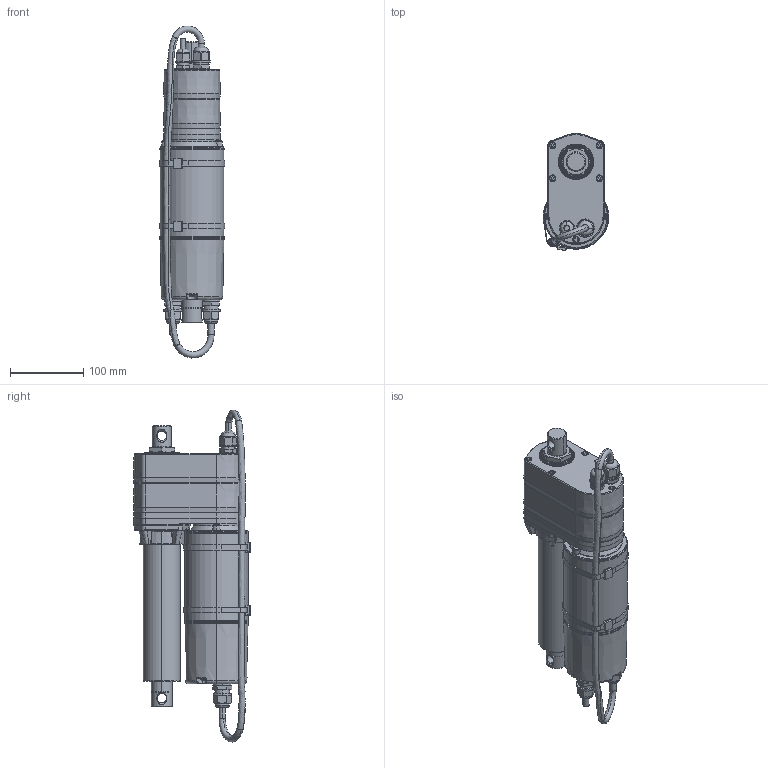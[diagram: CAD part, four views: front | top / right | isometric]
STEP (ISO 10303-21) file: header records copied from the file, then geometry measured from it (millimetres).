
FILE_DESCRIPTION((''),' ');
FILE_NAME('dszy5_ttpot_102.stp',' ',('R. Lindner'),('MSW GmbH'),' ','ACIS 14.0',' ');
FILE_SCHEMA(('automotive_design'));
Length unit declared in the file: inch
Products named in the file (3): IA5-ACME+LT+POT-102|NAUO1#IA05-A-1;¶ê¨¤12; DSZY5-LTPOT-102|NAUO1#-1;°£®Æ-¦ùªø16; DSZY5-LTPOT-102|NAUO2#-2;°£®Æ-±ÛÂà9
Bounding box: 89.6 x 159.59 x 453.99 mm (x, y, z)
Volume: 2963803.3 mm3; surface area: 277021.1 mm2
Topology: 3 solids, 3 shells, 1331 faces, 3375 edges, 2085 vertices
Faces by surface type: plane 719, cylinder 283, torus 139, bspline 109, cone 75, sphere 6
Entity records: 55152 total; most frequent: CARTESIAN_POINT 14529, ORIENTED_EDGE 6722, DIRECTION 5928, EDGE_CURVE 3361, AXIS2_PLACEMENT_3D 2265, VERTEX_POINT 2085, LINE 1398, VECTOR 1398
